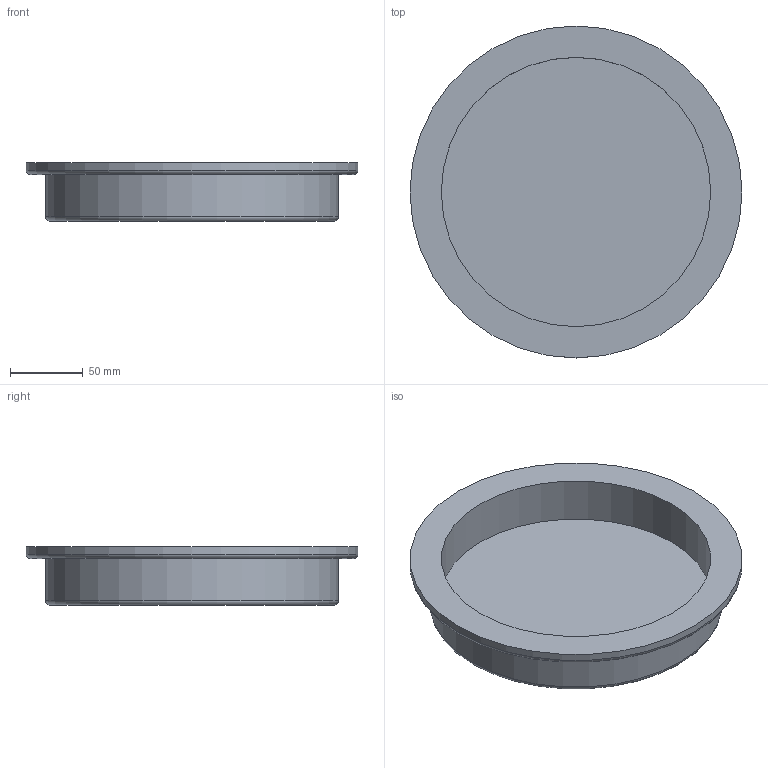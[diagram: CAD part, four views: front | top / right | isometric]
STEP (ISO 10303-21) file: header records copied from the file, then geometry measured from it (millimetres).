
FILE_DESCRIPTION((''),'2;1');
FILE_NAME('U:\Wolfgang\Marcel-3D\fertig\Kapitel 4\2001140.stp','2011-04-21T08:26:07',('TK1'),(''),'Autodesk Inventor 2010','Autodesk Inventor 2010','');
FILE_SCHEMA(('AUTOMOTIVE_DESIGN { 1 0 10303 214 1 1 1 1 }'));
Length unit declared in the file: millimetre
Products named in the file (1): 2001140
Bounding box: 228 x 228 x 40 mm (x, y, z)
Volume: 479258.1 mm3; surface area: 124448.1 mm2
Topology: 1 solids, 1 shells, 9 faces, 13 edges, 8 vertices
Faces by surface type: plane 4, cylinder 3, torus 2
Full cylindrical faces by diameter (mm): 185 x1, 201 x1, 228 x1
Entity records: 200 total; most frequent: DIRECTION 36, CARTESIAN_POINT 26, AXIS2_PLACEMENT_3D 18, ORIENTED_EDGE 16, EDGE_LOOP 16, FACE_OUTER_BOUND 9, ADVANCED_FACE 9, VERTEX_POINT 8
